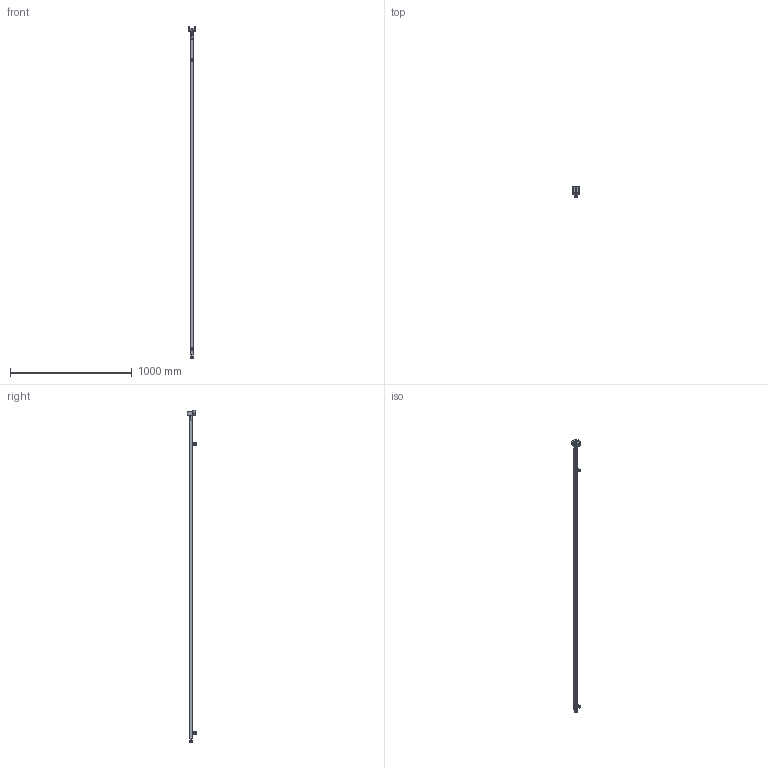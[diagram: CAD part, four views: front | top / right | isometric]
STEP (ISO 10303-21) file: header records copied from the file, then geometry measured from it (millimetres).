
FILE_DESCRIPTION (( 'STEP AP214' ), '1' );
FILE_NAME ('1001882.STEP', '2025-09-17T08:12:30', ( '' ), ( '' ), 'SwSTEP 2.0', 'SolidWorks 2025', '' );
FILE_SCHEMA (( 'AUTOMOTIVE_DESIGN' ));
Length unit declared in the file: millimetre
Products named in the file (1): 1001882
Bounding box: 54.9 x 81.5 x 2726.5 mm (x, y, z)
Volume: 1786389.8 mm3; surface area: 307138 mm2
Topology: 14 solids, 14 shells, 1121 faces, 2929 edges, 1908 vertices
Faces by surface type: plane 869, cylinder 120, bspline 60, cone 38, torus 34
Entity records: 34688 total; most frequent: CARTESIAN_POINT 7120, ORIENTED_EDGE 5858, DIRECTION 5262, EDGE_CURVE 2929, VECTOR 2450, LINE 2450, VERTEX_POINT 1908, AXIS2_PLACEMENT_3D 1406
